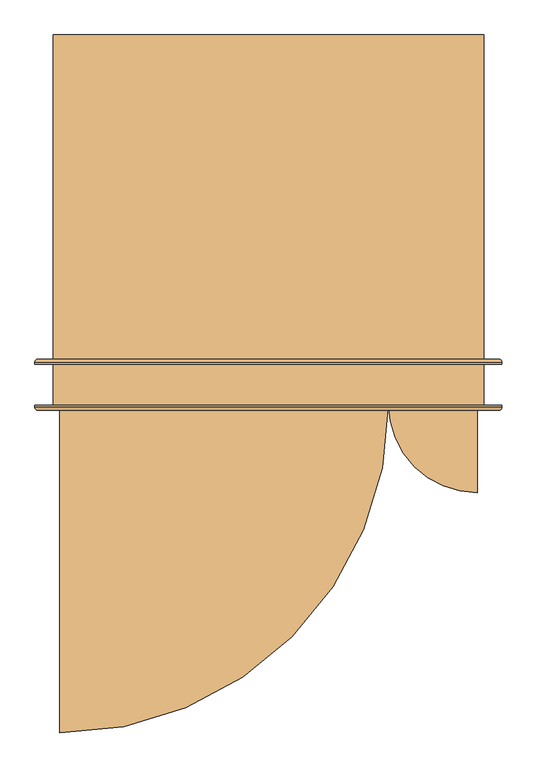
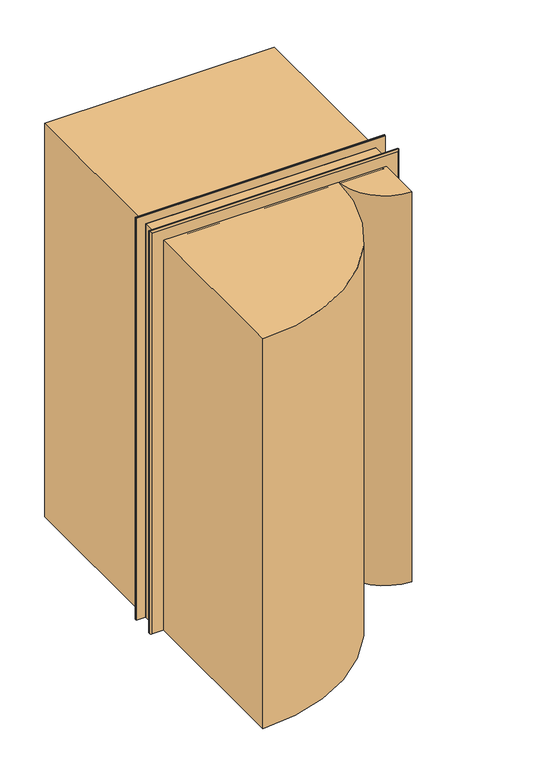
"""IFC4 building model written with IfcOpenShell, lengths in millimetres: door geometry, Дверь_Деревянная_Внутренняя_Двупольная_ГОСТ_475-2016 : 1310 х 2370(h)_Л_с Порогом."""

from ifc_helpers import new_model, si_unit, point, frame, frame_2d, origin, origin_with_axes, place, context, project, spatial, polyline, circle_curve, ellipse_curve, trimmed, segment, composite_curve, outline, extrude, faceted_brep, source, transform, mapped, element, save
from ifc_brep_helpers import plane_surface, cylinder_surface, revolved_surface, advanced_brep


def door_94be55c8(model_context):
    return source(origin(), model_context, "Body", "SolidModel", [
        extrude(outline(polyline([(-645.0, 456.5), (-645.0, 1456.5), (665.0, 1456.5), (665.0, 456.5), (-645.0, 456.5)])), origin_with_axes(), (0.0, 0.0, 1.0), 2370.0),
        extrude(outline(composite_curve([segment(polyline([(-625.0, -663.5), (-625.0, 336.5), (375.0, 336.5)]), True, "CONTINUOUS"), segment(trimmed(circle_curve(frame_2d((-625.0, 336.5)), 1000.0), [point((375.0, 336.5))], [point((-625.0, -663.5))], False, "CARTESIAN"), True, "CONTINUOUS")], self_intersect=False)), origin_with_axes(), (0.0, 0.0, 1.0), 2350.0),
        extrude(outline(composite_curve([segment(trimmed(circle_curve(frame_2d((645.0, 336.5)), 270.0), [point((645.0, 66.5))], [point((375.0, 336.5))], False, "CARTESIAN"), True, "CONTINUOUS"), segment(polyline([(375.0, 336.5), (645.0, 336.5), (645.0, 66.5)]), True, "CONTINUOUS")], self_intersect=False)), origin_with_axes(), (0.0, 0.0, 1.0), 2350.0),
        advanced_brep(
        [(410.0, 310.5, 1100.0), (420.0, 280.5, 1100.0), (450.0, 280.5, 1100.0), (460.0, 310.5, 1100.0), (417.0, 310.5, 1100.0), (453.0, 310.5, 1100.0), (425.0, 318.5, 1100.0), (445.0, 318.5, 1100.0), (425.0, 330.5, 1100.0), (445.0, 330.5, 1100.0), (435.0, 330.5, 1100.0), (435.0, 280.5, 1100.0)],
        [
            (0, 1, circle_curve(frame((444.6226265, 305.3742088, 1100.0), z_axis=(0.0, 0.0, 1.0), x_axis=(1.0, 0.0, 0.0)), 35.0)),
            (1, 2, circle_curve(frame((435.0, 280.5, 1100.0), z_axis=(0.0, 1.0, 0.0), x_axis=(1.0, 0.0, 0.0)), 15.0)),
            (2, 3, circle_curve(frame((425.3773735, 305.3742088, 1100.0), z_axis=(0.0, 0.0, 1.0), x_axis=(-1.0, 0.0, 0.0)), 35.0)),
            (3, 0, circle_curve(frame((435.0, 310.5, 1100.0), z_axis=(0.0, -1.0, 0.0), x_axis=(1.0, 0.0, 0.0)), 25.0)),
            (2, 1, circle_curve(frame((435.0, 280.5, 1100.0), z_axis=(0.0, 1.0, 0.0), x_axis=(1.0, 0.0, 0.0)), 15.0)),
            (0, 3, circle_curve(frame((435.0, 310.5, 1100.0), z_axis=(0.0, -1.0, 0.0), x_axis=(1.0, 0.0, 0.0)), 25.0)),
            (4, 0),
            (3, 5),
            (5, 4, circle_curve(frame((435.0, 310.5, 1100.0), z_axis=(0.0, -1.0, 0.0), x_axis=(1.0, 0.0, 0.0)), 18.0)),
            (4, 5, circle_curve(frame((435.0, 310.5, 1100.0), z_axis=(0.0, -1.0, 0.0), x_axis=(1.0, 0.0, 0.0)), 18.0)),
            (6, 4, circle_curve(frame((417.0, 318.5, 1100.0), z_axis=(0.0, 0.0, -1.0), x_axis=(1.0, 0.0, 0.0)), 8.0)),
            (5, 7, circle_curve(frame((453.0, 318.5, 1100.0), z_axis=(0.0, 0.0, -1.0), x_axis=(-1.0, 0.0, 0.0)), 8.0)),
            (7, 6, circle_curve(frame((435.0, 318.5, 1100.0), z_axis=(0.0, -1.0, 0.0), x_axis=(1.0, 0.0, 0.0)), 10.0)),
            (6, 7, circle_curve(frame((435.0, 318.5, 1100.0), z_axis=(0.0, -1.0, 0.0), x_axis=(1.0, 0.0, 0.0)), 10.0)),
            (8, 6),
            (7, 9),
            (9, 8, circle_curve(frame((435.0, 330.5, 1100.0), z_axis=(0.0, -1.0, 0.0), x_axis=(1.0, 0.0, 0.0)), 10.0)),
            (8, 9, circle_curve(frame((435.0, 330.5, 1100.0), z_axis=(0.0, -1.0, 0.0), x_axis=(1.0, 0.0, 0.0)), 10.0)),
            (10, 8),
            (9, 10),
            (1, 11),
            (11, 2),
        ],
        [
            revolved_surface(trimmed(ellipse_curve(frame((425.3773735, 305.3742088, 1100.0), z_axis=(0.0, 0.0, 1.0), x_axis=(-1.0, 0.0, 0.0)), 35.0, 35.0), [point((450.0, 280.5, 1100.0))], [point((460.0, 310.5, 1100.0))], True, "CARTESIAN"), (435.0, 280.5, 1100.0), (0.0, 1.0, 0.0)),
            plane_surface(frame((435.0, 310.5, 1100.0), z_axis=(0.0, 1.0, 0.0), x_axis=(1.0, 0.0, 0.0))),
            revolved_surface(trimmed(ellipse_curve(frame((453.0, 318.5, 1100.0), z_axis=(0.0, 0.0, -1.0), x_axis=(-1.0, 0.0, 0.0)), 8.0, 8.0), [point((453.0, 310.5, 1100.0))], [point((445.0, 318.5, 1100.0))], True, "CARTESIAN"), (435.0, 280.5, 1100.0), (0.0, 1.0, 0.0)),
            cylinder_surface(frame((435.0, 280.5, 1100.0), z_axis=(0.0, 1.0, 0.0), x_axis=(1.0, 0.0, 0.0)), 10.0),
            plane_surface(frame((435.0, 330.5, 1100.0), z_axis=(0.0, 1.0, 0.0), x_axis=(1.0, 0.0, 0.0))),
            plane_surface(frame((435.0, 280.5, 1100.0), z_axis=(0.0, -1.0, 0.0), x_axis=(1.0, 0.0, 0.0))),
        ],
        [
            (0, [[1, 2, 3, 4]]),
            (0, [[-3, 5, -1, 6]]),
            (1, [[7, -4, 8, 9]]),
            (1, [[-8, -6, -7, 10]]),
            (2, [[11, -9, 12, 13]]),
            (2, [[-12, -10, -11, 14]]),
            (3, [[15, -13, 16, 17]]),
            (3, [[-16, -14, -15, 18]]),
            (4, [[19, -17, 20]]),
            (4, [[-20, -18, -19]]),
            (5, [[21, 22, -2]]),
            (5, [[-22, -21, -5]]),
        ],
    ),
        extrude(outline(composite_curve([segment(trimmed(circle_curve(frame_2d((1100.0, 435.0)), 30.0), [point((1100.0, 465.0))], [point((1100.0, 405.0))], False, "CARTESIAN"), True, "CONTINUOUS"), segment(trimmed(circle_curve(frame_2d((1100.0, 435.0)), 30.0), [point((1100.0, 405.0))], [point((1100.0, 465.0))], False, "CARTESIAN"), True, "CONTINUOUS")], self_intersect=False)), frame((0.0, 330.5, 0.0), z_axis=(0.0, 1.0, 0.0), x_axis=(0.0, 0.0, 1.0)), (0.0, 0.0, 1.0), 6.0),
        advanced_brep(
        [(460.0, 411.5, 1100.0), (450.0, 441.5, 1100.0), (420.0, 441.5, 1100.0), (410.0, 411.5, 1100.0), (453.0, 411.5, 1100.0), (417.0, 411.5, 1100.0), (445.0, 403.5, 1100.0), (425.0, 403.5, 1100.0), (445.0, 391.5, 1100.0), (425.0, 391.5, 1100.0), (435.0, 391.5, 1100.0), (435.0, 441.5, 1100.0)],
        [
            (0, 1, circle_curve(frame((425.3773735, 416.6257912, 1100.0), z_axis=(0.0, 0.0, 1.0), x_axis=(-1.0, 0.0, 0.0)), 35.0)),
            (1, 2, circle_curve(frame((435.0, 441.5, 1100.0), z_axis=(0.0, -1.0, 0.0), x_axis=(-1.0, 0.0, 0.0)), 15.0)),
            (2, 3, circle_curve(frame((444.6226265, 416.6257912, 1100.0), z_axis=(0.0, 0.0, 1.0), x_axis=(1.0, 0.0, 0.0)), 35.0)),
            (3, 0, circle_curve(frame((435.0, 411.5, 1100.0), z_axis=(0.0, 1.0, 0.0), x_axis=(-1.0, 0.0, 0.0)), 25.0)),
            (2, 1, circle_curve(frame((435.0, 441.5, 1100.0), z_axis=(0.0, -1.0, 0.0), x_axis=(-1.0, 0.0, 0.0)), 15.0)),
            (0, 3, circle_curve(frame((435.0, 411.5, 1100.0), z_axis=(0.0, 1.0, 0.0), x_axis=(-1.0, 0.0, 0.0)), 25.0)),
            (4, 0),
            (3, 5),
            (5, 4, circle_curve(frame((435.0, 411.5, 1100.0), z_axis=(0.0, 1.0, 0.0), x_axis=(-1.0, 0.0, 0.0)), 18.0)),
            (4, 5, circle_curve(frame((435.0, 411.5, 1100.0), z_axis=(0.0, 1.0, 0.0), x_axis=(-1.0, 0.0, 0.0)), 18.0)),
            (6, 4, circle_curve(frame((453.0, 403.5, 1100.0), z_axis=(0.0, 0.0, -1.0), x_axis=(-1.0, 0.0, 0.0)), 8.0)),
            (5, 7, circle_curve(frame((417.0, 403.5, 1100.0), z_axis=(0.0, 0.0, -1.0), x_axis=(1.0, 0.0, 0.0)), 8.0)),
            (7, 6, circle_curve(frame((435.0, 403.5, 1100.0), z_axis=(0.0, 1.0, 0.0), x_axis=(-1.0, 0.0, 0.0)), 10.0)),
            (6, 7, circle_curve(frame((435.0, 403.5, 1100.0), z_axis=(0.0, 1.0, 0.0), x_axis=(-1.0, 0.0, 0.0)), 10.0)),
            (8, 6),
            (7, 9),
            (9, 8, circle_curve(frame((435.0, 391.5, 1100.0), z_axis=(0.0, 1.0, 0.0), x_axis=(-1.0, 0.0, 0.0)), 10.0)),
            (8, 9, circle_curve(frame((435.0, 391.5, 1100.0), z_axis=(0.0, 1.0, 0.0), x_axis=(-1.0, 0.0, 0.0)), 10.0)),
            (10, 8),
            (9, 10),
            (1, 11),
            (11, 2),
        ],
        [
            revolved_surface(trimmed(ellipse_curve(frame((444.6226265, 416.6257912, 1100.0), z_axis=(0.0, 0.0, 1.0), x_axis=(1.0, 0.0, 0.0)), 35.0, 35.0), [point((420.0, 441.5, 1100.0))], [point((410.0, 411.5, 1100.0))], True, "CARTESIAN"), (435.0, 441.5, 1100.0), (0.0, -1.0, 0.0)),
            plane_surface(frame((435.0, 411.5, 1100.0), z_axis=(0.0, -1.0, 0.0), x_axis=(-1.0, 0.0, 0.0))),
            revolved_surface(trimmed(ellipse_curve(frame((417.0, 403.5, 1100.0), z_axis=(0.0, 0.0, -1.0), x_axis=(1.0, 0.0, 0.0)), 8.0, 8.0), [point((417.0, 411.5, 1100.0))], [point((425.0, 403.5, 1100.0))], True, "CARTESIAN"), (435.0, 441.5, 1100.0), (0.0, -1.0, 0.0)),
            cylinder_surface(frame((435.0, 441.5, 1100.0), z_axis=(0.0, -1.0, 0.0), x_axis=(-1.0, 0.0, 0.0)), 10.0),
            plane_surface(frame((435.0, 391.5, 1100.0), z_axis=(0.0, -1.0, 0.0), x_axis=(-1.0, 0.0, 0.0))),
            plane_surface(frame((435.0, 441.5, 1100.0), z_axis=(0.0, 1.0, 0.0), x_axis=(-1.0, 0.0, 0.0))),
        ],
        [
            (0, [[1, 2, 3, 4]]),
            (0, [[-3, 5, -1, 6]]),
            (1, [[7, -4, 8, 9]]),
            (1, [[-8, -6, -7, 10]]),
            (2, [[11, -9, 12, 13]]),
            (2, [[-12, -10, -11, 14]]),
            (3, [[15, -13, 16, 17]]),
            (3, [[-16, -14, -15, 18]]),
            (4, [[19, -17, 20]]),
            (4, [[-20, -18, -19]]),
            (5, [[21, 22, -2]]),
            (5, [[-22, -21, -5]]),
        ],
    ),
        extrude(outline(composite_curve([segment(trimmed(circle_curve(frame_2d((1100.0, 435.0)), 30.0), [point((1100.0, 405.0))], [point((1100.0, 465.0))], False, "CARTESIAN"), True, "CONTINUOUS"), segment(trimmed(circle_curve(frame_2d((1100.0, 435.0)), 30.0), [point((1100.0, 465.0))], [point((1100.0, 405.0))], False, "CARTESIAN"), True, "CONTINUOUS")], self_intersect=False)), frame((0.0, 385.5, 0.0), z_axis=(0.0, 1.0, 0.0), x_axis=(0.0, 0.0, 1.0)), (0.0, 0.0, 1.0), 6.0),
        advanced_brep(
        [(340.0, 310.5, 1100.0), (290.0, 310.5, 1100.0), (300.0, 280.5, 1100.0), (330.0, 280.5, 1100.0), (333.0, 310.5, 1100.0), (297.0, 310.5, 1100.0), (325.0, 318.5, 1100.0), (305.0, 318.5, 1100.0), (325.0, 330.5, 1100.0), (305.0, 330.5, 1100.0), (315.0, 330.5, 1100.0), (315.0, 280.5, 1100.0)],
        [
            (0, 1, circle_curve(frame((315.0, 310.5, 1100.0), z_axis=(0.0, -1.0, 0.0), x_axis=(-1.0, 0.0, 0.0)), 25.0)),
            (1, 2, circle_curve(frame((324.6226265, 305.3742088, 1100.0), z_axis=(0.0, 0.0, 1.0), x_axis=(1.0, 0.0, 0.0)), 35.0)),
            (2, 3, circle_curve(frame((315.0, 280.5, 1100.0), z_axis=(0.0, 1.0, 0.0), x_axis=(-1.0, 0.0, 0.0)), 15.0)),
            (3, 0, circle_curve(frame((305.3773735, 305.3742088, 1100.0), z_axis=(0.0, 0.0, 1.0), x_axis=(-1.0, 0.0, 0.0)), 35.0)),
            (1, 0, circle_curve(frame((315.0, 310.5, 1100.0), z_axis=(0.0, -1.0, 0.0), x_axis=(-1.0, 0.0, 0.0)), 25.0)),
            (3, 2, circle_curve(frame((315.0, 280.5, 1100.0), z_axis=(0.0, 1.0, 0.0), x_axis=(-1.0, 0.0, 0.0)), 15.0)),
            (4, 5, circle_curve(frame((315.0, 310.5, 1100.0), z_axis=(0.0, -1.0, 0.0), x_axis=(-1.0, 0.0, 0.0)), 18.0)),
            (5, 1),
            (0, 4),
            (5, 4, circle_curve(frame((315.0, 310.5, 1100.0), z_axis=(0.0, -1.0, 0.0), x_axis=(-1.0, 0.0, 0.0)), 18.0)),
            (6, 7, circle_curve(frame((315.0, 318.5, 1100.0), z_axis=(0.0, -1.0, 0.0), x_axis=(-1.0, 0.0, 0.0)), 10.0)),
            (7, 5, circle_curve(frame((297.0, 318.5, 1100.0), z_axis=(0.0, 0.0, -1.0), x_axis=(1.0, 0.0, 0.0)), 8.0)),
            (4, 6, circle_curve(frame((333.0, 318.5, 1100.0), z_axis=(0.0, 0.0, -1.0), x_axis=(-1.0, 0.0, 0.0)), 8.0)),
            (7, 6, circle_curve(frame((315.0, 318.5, 1100.0), z_axis=(0.0, -1.0, 0.0), x_axis=(-1.0, 0.0, 0.0)), 10.0)),
            (8, 9, circle_curve(frame((315.0, 330.5, 1100.0), z_axis=(0.0, -1.0, 0.0), x_axis=(-1.0, 0.0, 0.0)), 10.0)),
            (9, 7),
            (6, 8),
            (9, 8, circle_curve(frame((315.0, 330.5, 1100.0), z_axis=(0.0, -1.0, 0.0), x_axis=(-1.0, 0.0, 0.0)), 10.0)),
            (10, 9),
            (8, 10),
            (2, 11),
            (11, 3),
        ],
        [
            revolved_surface(trimmed(ellipse_curve(frame((324.6226265, 305.3742088, 1100.0), z_axis=(0.0, 0.0, -1.0), x_axis=(1.0, 0.0, 0.0)), 35.0, 35.0), [point((300.0, 280.5, 1100.0))], [point((290.0, 310.5, 1100.0))], True, "CARTESIAN"), (315.0, 280.5, 1100.0), (0.0, 1.0, 0.0)),
            plane_surface(frame((315.0, 310.5, 1100.0), z_axis=(0.0, 1.0, 0.0), x_axis=(-1.0, 0.0, 0.0))),
            revolved_surface(trimmed(ellipse_curve(frame((297.0, 318.5, 1100.0), z_axis=(0.0, 0.0, 1.0), x_axis=(1.0, 0.0, 0.0)), 8.0, 8.0), [point((297.0, 310.5, 1100.0))], [point((305.0, 318.5, 1100.0))], True, "CARTESIAN"), (315.0, 280.5, 1100.0), (0.0, 1.0, 0.0)),
            cylinder_surface(frame((315.0, 280.5, 1100.0), z_axis=(0.0, 1.0, 0.0), x_axis=(-1.0, 0.0, 0.0)), 10.0),
            plane_surface(frame((315.0, 330.5, 1100.0), z_axis=(0.0, 1.0, 0.0), x_axis=(-1.0, 0.0, 0.0))),
            plane_surface(frame((315.0, 280.5, 1100.0), z_axis=(0.0, -1.0, 0.0), x_axis=(-1.0, 0.0, 0.0))),
        ],
        [
            (0, [[1, 2, 3, 4]]),
            (0, [[5, -4, 6, -2]]),
            (1, [[7, 8, -1, 9]]),
            (1, [[10, -9, -5, -8]]),
            (2, [[11, 12, -7, 13]]),
            (2, [[14, -13, -10, -12]]),
            (3, [[15, 16, -11, 17]]),
            (3, [[18, -17, -14, -16]]),
            (4, [[19, -15, 20]]),
            (4, [[-20, -18, -19]]),
            (5, [[-3, 21, 22]]),
            (5, [[-6, -22, -21]]),
        ],
    ),
        extrude(outline(composite_curve([segment(trimmed(circle_curve(frame_2d((1100.0, 315.0)), 30.0), [point((1100.0, 285.0))], [point((1100.0, 345.0))], False, "CARTESIAN"), True, "CONTINUOUS"), segment(trimmed(circle_curve(frame_2d((1100.0, 315.0)), 30.0), [point((1100.0, 345.0))], [point((1100.0, 285.0))], False, "CARTESIAN"), True, "CONTINUOUS")], self_intersect=False)), frame((0.0, 330.5, 0.0), z_axis=(0.0, 1.0, 0.0), x_axis=(0.0, 0.0, 1.0)), (0.0, 0.0, 1.0), 6.0),
        advanced_brep(
        [(290.0, 411.5, 1100.0), (340.0, 411.5, 1100.0), (330.0, 441.5, 1100.0), (300.0, 441.5, 1100.0), (297.0, 411.5, 1100.0), (333.0, 411.5, 1100.0), (305.0, 403.5, 1100.0), (325.0, 403.5, 1100.0), (305.0, 391.5, 1100.0), (325.0, 391.5, 1100.0), (315.0, 391.5, 1100.0), (315.0, 441.5, 1100.0)],
        [
            (0, 1, circle_curve(frame((315.0, 411.5, 1100.0), z_axis=(0.0, 1.0, 0.0), x_axis=(1.0, 0.0, 0.0)), 25.0)),
            (1, 2, circle_curve(frame((305.3773735, 416.6257912, 1100.0), z_axis=(0.0, 0.0, 1.0), x_axis=(-1.0, 0.0, 0.0)), 35.0)),
            (2, 3, circle_curve(frame((315.0, 441.5, 1100.0), z_axis=(0.0, -1.0, 0.0), x_axis=(1.0, 0.0, 0.0)), 15.0)),
            (3, 0, circle_curve(frame((324.6226265, 416.6257912, 1100.0), z_axis=(0.0, 0.0, 1.0), x_axis=(1.0, 0.0, 0.0)), 35.0)),
            (1, 0, circle_curve(frame((315.0, 411.5, 1100.0), z_axis=(0.0, 1.0, 0.0), x_axis=(1.0, 0.0, 0.0)), 25.0)),
            (3, 2, circle_curve(frame((315.0, 441.5, 1100.0), z_axis=(0.0, -1.0, 0.0), x_axis=(1.0, 0.0, 0.0)), 15.0)),
            (4, 5, circle_curve(frame((315.0, 411.5, 1100.0), z_axis=(0.0, 1.0, 0.0), x_axis=(1.0, 0.0, 0.0)), 18.0)),
            (5, 1),
            (0, 4),
            (5, 4, circle_curve(frame((315.0, 411.5, 1100.0), z_axis=(0.0, 1.0, 0.0), x_axis=(1.0, 0.0, 0.0)), 18.0)),
            (6, 7, circle_curve(frame((315.0, 403.5, 1100.0), z_axis=(0.0, 1.0, 0.0), x_axis=(1.0, 0.0, 0.0)), 10.0)),
            (7, 5, circle_curve(frame((333.0, 403.5, 1100.0), z_axis=(0.0, 0.0, -1.0), x_axis=(-1.0, 0.0, 0.0)), 8.0)),
            (4, 6, circle_curve(frame((297.0, 403.5, 1100.0), z_axis=(0.0, 0.0, -1.0), x_axis=(1.0, 0.0, 0.0)), 8.0)),
            (7, 6, circle_curve(frame((315.0, 403.5, 1100.0), z_axis=(0.0, 1.0, 0.0), x_axis=(1.0, 0.0, 0.0)), 10.0)),
            (8, 9, circle_curve(frame((315.0, 391.5, 1100.0), z_axis=(0.0, 1.0, 0.0), x_axis=(1.0, 0.0, 0.0)), 10.0)),
            (9, 7),
            (6, 8),
            (9, 8, circle_curve(frame((315.0, 391.5, 1100.0), z_axis=(0.0, 1.0, 0.0), x_axis=(1.0, 0.0, 0.0)), 10.0)),
            (10, 9),
            (8, 10),
            (2, 11),
            (11, 3),
        ],
        [
            revolved_surface(trimmed(ellipse_curve(frame((305.3773735, 416.6257912, 1100.0), z_axis=(0.0, 0.0, -1.0), x_axis=(-1.0, 0.0, 0.0)), 35.0, 35.0), [point((330.0, 441.5, 1100.0))], [point((340.0, 411.5, 1100.0))], True, "CARTESIAN"), (315.0, 441.5, 1100.0), (0.0, -1.0, 0.0)),
            plane_surface(frame((315.0, 411.5, 1100.0), z_axis=(0.0, -1.0, 0.0), x_axis=(1.0, 0.0, 0.0))),
            revolved_surface(trimmed(ellipse_curve(frame((333.0, 403.5, 1100.0), z_axis=(0.0, 0.0, 1.0), x_axis=(-1.0, 0.0, 0.0)), 8.0, 8.0), [point((333.0, 411.5, 1100.0))], [point((325.0, 403.5, 1100.0))], True, "CARTESIAN"), (315.0, 441.5, 1100.0), (0.0, -1.0, 0.0)),
            cylinder_surface(frame((315.0, 441.5, 1100.0), z_axis=(0.0, -1.0, 0.0), x_axis=(1.0, 0.0, 0.0)), 10.0),
            plane_surface(frame((315.0, 391.5, 1100.0), z_axis=(0.0, -1.0, 0.0), x_axis=(1.0, 0.0, 0.0))),
            plane_surface(frame((315.0, 441.5, 1100.0), z_axis=(0.0, 1.0, 0.0), x_axis=(1.0, 0.0, 0.0))),
        ],
        [
            (0, [[1, 2, 3, 4]]),
            (0, [[5, -4, 6, -2]]),
            (1, [[7, 8, -1, 9]]),
            (1, [[10, -9, -5, -8]]),
            (2, [[11, 12, -7, 13]]),
            (2, [[14, -13, -10, -12]]),
            (3, [[15, 16, -11, 17]]),
            (3, [[18, -17, -14, -16]]),
            (4, [[19, -15, 20]]),
            (4, [[-20, -18, -19]]),
            (5, [[-3, 21, 22]]),
            (5, [[-6, -22, -21]]),
        ],
    ),
        extrude(outline(composite_curve([segment(trimmed(circle_curve(frame_2d((1100.0, 315.0)), 30.0), [point((1100.0, 345.0))], [point((1100.0, 285.0))], False, "CARTESIAN"), True, "CONTINUOUS"), segment(trimmed(circle_curve(frame_2d((1100.0, 315.0)), 30.0), [point((1100.0, 285.0))], [point((1100.0, 345.0))], False, "CARTESIAN"), True, "CONTINUOUS")], self_intersect=False)), frame((0.0, 385.5, 0.0), z_axis=(0.0, 1.0, 0.0), x_axis=(0.0, 0.0, 1.0)), (0.0, 0.0, 1.0), 6.0),
        extrude(outline(polyline([(0.0, 645.0), (0.0, 665.0), (2370.0, 665.0), (2370.0, -645.0), (0.0, -645.0), (0.0, -625.0), (2350.0, -625.0), (2350.0, 645.0), (0.0, 645.0)])), frame((0.0, 331.5, 0.0), z_axis=(0.0, 1.0, 0.0), x_axis=(0.0, 0.0, 1.0)), (0.0, 0.0, 1.0), 125.0),
        advanced_brep(
        [(-700.0, 326.5, 0.0), (-700.0, 331.5, 0.0), (-610.0, 331.5, 0.0), (-610.0, 326.5, 0.0), (-620.0, 316.5, 0.0), (-690.0, 316.5, 0.0), (-700.0, 326.5, 2425.0), (-700.0, 331.5, 2425.0), (720.0, 331.5, 2425.0), (720.0, 331.5, 0.0), (630.0, 331.5, 0.0), (630.0, 331.5, 2335.0), (-610.0, 331.5, 2335.0), (-610.0, 326.5, 2335.0), (-620.0, 316.5, 2345.0), (640.0, 316.5, 2345.0), (640.0, 316.5, 0.0), (710.0, 316.5, 0.0), (710.0, 316.5, 2415.0), (-690.0, 316.5, 2415.0), (720.0, 326.5, 2425.0), (720.0, 326.5, 0.0), (630.0, 326.5, 0.0), (630.0, 326.5, 2335.0)],
        [
            (0, 1),
            (1, 2),
            (2, 3),
            (3, 4, circle_curve(frame((-620.0, 326.5, 0.0), z_axis=(0.0, 0.0, -1.0), x_axis=(1.0, 0.0, 0.0)), 10.0)),
            (4, 5),
            (5, 0, circle_curve(frame((-690.0, 326.5, 0.0), z_axis=(0.0, 0.0, -1.0), x_axis=(1.0, 0.0, 0.0)), 10.0)),
            (0, 6),
            (6, 7),
            (7, 1),
            (7, 8),
            (8, 9),
            (9, 10),
            (10, 11),
            (11, 12),
            (12, 2),
            (12, 13),
            (13, 3),
            (13, 14, ellipse_curve(frame((-620.0, 326.5, 2345.0), z_axis=(-0.7071067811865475, 0.0, -0.7071067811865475), x_axis=(0.7071067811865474, 0.0, -0.7071067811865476)), 14.1421356, 10.0)),
            (14, 4),
            (14, 15),
            (15, 16),
            (16, 17),
            (17, 18),
            (18, 19),
            (19, 5),
            (19, 6, ellipse_curve(frame((-690.0, 326.5, 2415.0), z_axis=(-0.7071067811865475, 0.0, -0.7071067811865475), x_axis=(0.7071067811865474, 0.0, -0.7071067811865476)), 14.1421356, 10.0)),
            (8, 20),
            (20, 21),
            (21, 9),
            (21, 17, circle_curve(frame((710.0, 326.5, 0.0), z_axis=(0.0, 0.0, -1.0), x_axis=(-1.0, 0.0, 0.0)), 10.0)),
            (16, 22, circle_curve(frame((640.0, 326.5, 0.0), z_axis=(0.0, 0.0, -1.0), x_axis=(-1.0, 0.0, 0.0)), 10.0)),
            (22, 10),
            (23, 11),
            (22, 23),
            (15, 23, ellipse_curve(frame((640.0, 326.5, 2345.0), z_axis=(0.7071067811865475, 0.0, -0.7071067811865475), x_axis=(0.7071067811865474, 0.0, 0.7071067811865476)), 14.1421356, 10.0)),
            (20, 18, ellipse_curve(frame((710.0, 326.5, 2415.0), z_axis=(0.7071067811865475, 0.0, -0.7071067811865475), x_axis=(0.7071067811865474, 0.0, 0.7071067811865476)), 14.1421356, 10.0)),
            (6, 20),
            (23, 13),
        ],
        [
            plane_surface(frame((-645.0, 331.5, 0.0), z_axis=(0.0, 0.0, -1.0), x_axis=(0.0, -1.0, 0.0))),
            plane_surface(frame((-700.0, 326.5, 0.0), z_axis=(-1.0, 0.0, 0.0), x_axis=(0.0, 0.0, 1.0))),
            plane_surface(frame((-700.0, 331.5, 0.0), z_axis=(0.0, 1.0, 0.0), x_axis=(0.0, 0.0, 1.0))),
            plane_surface(frame((-610.0, 331.5, 0.0), z_axis=(1.0, 0.0, 0.0), x_axis=(0.0, 0.0, 1.0))),
            cylinder_surface(frame((-620.0, 326.5, 0.0), z_axis=(0.0, 0.0, -1.0), x_axis=(1.0, 0.0, 0.0)), 10.0),
            plane_surface(frame((-620.0, 316.5, 0.0), z_axis=(0.0, -1.0, 0.0), x_axis=(0.0, 0.0, 1.0))),
            cylinder_surface(frame((-690.0, 326.5, 0.0), z_axis=(0.0, 0.0, -1.0), x_axis=(1.0, 0.0, 0.0)), 10.0),
            plane_surface(frame((720.0, 326.5, 2425.0), z_axis=(1.0, 0.0, 0.0), x_axis=(0.0, 0.0, -1.0))),
            plane_surface(frame((665.0, 331.5, 0.0), z_axis=(0.0, 0.0, -1.0), x_axis=(0.0, -1.0, 0.0))),
            plane_surface(frame((630.0, 331.5, 2335.0), z_axis=(-1.0, 0.0, 0.0), x_axis=(0.0, 0.0, -1.0))),
            cylinder_surface(frame((640.0, 326.5, 2370.0), z_axis=(0.0, 0.0, 1.0), x_axis=(-1.0, 0.0, 0.0)), 10.0),
            cylinder_surface(frame((710.0, 326.5, 2370.0), z_axis=(0.0, 0.0, 1.0), x_axis=(-1.0, 0.0, 0.0)), 10.0),
            plane_surface(frame((-700.0, 326.5, 2425.0), z_axis=(0.0, 0.0, 1.0), x_axis=(1.0, 0.0, 0.0))),
            plane_surface(frame((-610.0, 331.5, 2335.0), z_axis=(0.0, 0.0, -1.0), x_axis=(1.0, 0.0, 0.0))),
            cylinder_surface(frame((-645.0, 326.5, 2345.0), z_axis=(-1.0, 0.0, 0.0), x_axis=(0.0, 0.0, -1.0)), 10.0),
            cylinder_surface(frame((-645.0, 326.5, 2415.0), z_axis=(-1.0, 0.0, 0.0), x_axis=(0.0, 0.0, -1.0)), 10.0),
        ],
        [
            (0, [[1, 2, 3, 4, 5, 6]]),
            (1, [[-1, 7, 8, 9]]),
            (2, [[-2, -9, 10, 11, 12, 13, 14, 15]]),
            (3, [[-3, -15, 16, 17]]),
            (4, [[-4, -17, 18, 19]]),
            (5, [[-5, -19, 20, 21, 22, 23, 24, 25]]),
            (6, [[-6, -25, 26, -7]]),
            (7, [[27, 28, 29, -11]]),
            (8, [[30, -22, 31, 32, -12, -29]]),
            (9, [[33, -13, -32, 34]]),
            (10, [[35, -34, -31, -21]]),
            (11, [[36, -23, -30, -28]]),
            (12, [[-8, 37, -27, -10]]),
            (13, [[-16, -14, -33, 38]]),
            (14, [[-18, -38, -35, -20]]),
            (15, [[-26, -24, -36, -37]]),
        ],
    ),
        advanced_brep(
        [(720.0, 461.5, 0.0), (720.0, 456.5, 0.0), (630.0, 456.5, 0.0), (630.0, 461.5, 0.0), (640.0, 471.5, 0.0), (710.0, 471.5, 0.0), (720.0, 461.5, 2425.0), (720.0, 456.5, 2425.0), (-700.0, 456.5, 2425.0), (-700.0, 456.5, 0.0), (-610.0, 456.5, 0.0), (-610.0, 456.5, 2335.0), (630.0, 456.5, 2335.0), (630.0, 461.5, 2335.0), (640.0, 471.5, 2345.0), (-620.0, 471.5, 2345.0), (-620.0, 471.5, 0.0), (-690.0, 471.5, 0.0), (-690.0, 471.5, 2415.0), (710.0, 471.5, 2415.0), (-700.0, 461.5, 2425.0), (-700.0, 461.5, 0.0), (-610.0, 461.5, 0.0), (-610.0, 461.5, 2335.0)],
        [
            (0, 1),
            (1, 2),
            (2, 3),
            (3, 4, circle_curve(frame((640.0, 461.5, 0.0), z_axis=(0.0, 0.0, -1.0), x_axis=(-1.0, 0.0, 0.0)), 10.0)),
            (4, 5),
            (5, 0, circle_curve(frame((710.0, 461.5, 0.0), z_axis=(0.0, 0.0, -1.0), x_axis=(-1.0, 0.0, 0.0)), 10.0)),
            (0, 6),
            (6, 7),
            (7, 1),
            (7, 8),
            (8, 9),
            (9, 10),
            (10, 11),
            (11, 12),
            (12, 2),
            (12, 13),
            (13, 3),
            (13, 14, ellipse_curve(frame((640.0, 461.5, 2345.0), z_axis=(0.7071067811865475, 0.0, -0.7071067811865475), x_axis=(-0.7071067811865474, 0.0, -0.7071067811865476)), 14.1421356, 10.0)),
            (14, 4),
            (14, 15),
            (15, 16),
            (16, 17),
            (17, 18),
            (18, 19),
            (19, 5),
            (19, 6, ellipse_curve(frame((710.0, 461.5, 2415.0), z_axis=(0.7071067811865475, 0.0, -0.7071067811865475), x_axis=(-0.7071067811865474, 0.0, -0.7071067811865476)), 14.1421356, 10.0)),
            (8, 20),
            (20, 21),
            (21, 9),
            (21, 17, circle_curve(frame((-690.0, 461.5, 0.0), z_axis=(0.0, 0.0, -1.0), x_axis=(1.0, 0.0, 0.0)), 10.0)),
            (16, 22, circle_curve(frame((-620.0, 461.5, 0.0), z_axis=(0.0, 0.0, -1.0), x_axis=(1.0, 0.0, 0.0)), 10.0)),
            (22, 10),
            (23, 11),
            (22, 23),
            (15, 23, ellipse_curve(frame((-620.0, 461.5, 2345.0), z_axis=(-0.7071067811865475, 0.0, -0.7071067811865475), x_axis=(-0.7071067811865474, 0.0, 0.7071067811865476)), 14.1421356, 10.0)),
            (20, 18, ellipse_curve(frame((-690.0, 461.5, 2415.0), z_axis=(-0.7071067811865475, 0.0, -0.7071067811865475), x_axis=(-0.7071067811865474, 0.0, 0.7071067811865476)), 14.1421356, 10.0)),
            (6, 20),
            (23, 13),
        ],
        [
            plane_surface(frame((665.0, 456.5, 0.0), z_axis=(0.0, 0.0, -1.0), x_axis=(0.0, -1.0, 0.0))),
            plane_surface(frame((720.0, 461.5, 0.0), z_axis=(1.0, 0.0, 0.0), x_axis=(0.0, 0.0, 1.0))),
            plane_surface(frame((720.0, 456.5, 0.0), z_axis=(0.0, -1.0, 0.0), x_axis=(0.0, 0.0, 1.0))),
            plane_surface(frame((630.0, 456.5, 0.0), z_axis=(-1.0, 0.0, 0.0), x_axis=(0.0, 0.0, 1.0))),
            cylinder_surface(frame((640.0, 461.5, 0.0), z_axis=(0.0, 0.0, -1.0), x_axis=(-1.0, 0.0, 0.0)), 10.0),
            plane_surface(frame((640.0, 471.5, 0.0), z_axis=(0.0, 1.0, 0.0), x_axis=(0.0, 0.0, 1.0))),
            cylinder_surface(frame((710.0, 461.5, 0.0), z_axis=(0.0, 0.0, -1.0), x_axis=(-1.0, 0.0, 0.0)), 10.0),
            plane_surface(frame((-700.0, 461.5, 2425.0), z_axis=(-1.0, 0.0, 0.0), x_axis=(0.0, 0.0, -1.0))),
            plane_surface(frame((-645.0, 456.5, 0.0), z_axis=(0.0, 0.0, -1.0), x_axis=(0.0, -1.0, 0.0))),
            plane_surface(frame((-610.0, 456.5, 2335.0), z_axis=(1.0, 0.0, 0.0), x_axis=(0.0, 0.0, -1.0))),
            cylinder_surface(frame((-620.0, 461.5, 2370.0), z_axis=(0.0, 0.0, 1.0), x_axis=(1.0, 0.0, 0.0)), 10.0),
            cylinder_surface(frame((-690.0, 461.5, 2370.0), z_axis=(0.0, 0.0, 1.0), x_axis=(1.0, 0.0, 0.0)), 10.0),
            plane_surface(frame((720.0, 461.5, 2425.0), z_axis=(0.0, 0.0, 1.0), x_axis=(-1.0, 0.0, 0.0))),
            plane_surface(frame((630.0, 456.5, 2335.0), z_axis=(0.0, 0.0, -1.0), x_axis=(-1.0, 0.0, 0.0))),
            cylinder_surface(frame((665.0, 461.5, 2345.0), z_axis=(1.0, 0.0, 0.0), x_axis=(0.0, 0.0, -1.0)), 10.0),
            cylinder_surface(frame((665.0, 461.5, 2415.0), z_axis=(1.0, 0.0, 0.0), x_axis=(0.0, 0.0, -1.0)), 10.0),
        ],
        [
            (0, [[1, 2, 3, 4, 5, 6]]),
            (1, [[-1, 7, 8, 9]]),
            (2, [[-2, -9, 10, 11, 12, 13, 14, 15]]),
            (3, [[-3, -15, 16, 17]]),
            (4, [[-4, -17, 18, 19]]),
            (5, [[-5, -19, 20, 21, 22, 23, 24, 25]]),
            (6, [[-6, -25, 26, -7]]),
            (7, [[27, 28, 29, -11]]),
            (8, [[30, -22, 31, 32, -12, -29]]),
            (9, [[33, -13, -32, 34]]),
            (10, [[35, -34, -31, -21]]),
            (11, [[36, -23, -30, -28]]),
            (12, [[-8, 37, -27, -10]]),
            (13, [[-16, -14, -33, 38]]),
            (14, [[-18, -38, -35, -20]]),
            (15, [[-26, -24, -36, -37]]),
        ],
    ),
        extrude(outline(polyline([(605.0, 385.5), (605.0, 331.5), (-585.0, 331.5), (-585.0, 385.5), (605.0, 385.5)])), origin_with_axes(), (0.0, 0.0, 1.0), 45.0),
        extrude(outline(polyline([(600.0, 385.5), (600.0, 336.5), (375.0, 336.5), (375.0, 385.5), (600.0, 385.5)])), frame((0.0, 0.0, 45.0), z_axis=(0.0, 0.0, 1.0), x_axis=(1.0, 0.0, 0.0)), (0.0, 0.0, 1.0), 2260.0),
        extrude(outline(polyline([(375.0, 385.5), (375.0, 336.5), (-580.0, 336.5), (-580.0, 385.5), (375.0, 385.5)])), frame((0.0, 0.0, 45.0), z_axis=(0.0, 0.0, 1.0), x_axis=(1.0, 0.0, 0.0)), (0.0, 0.0, 1.0), 2260.0),
        faceted_brep([(630.0, 456.5, 0.0), (645.0, 456.5, 0.0), (645.0, 430.5, 0.0), (630.0, 430.5, 0.0), (630.0, 456.5, 2335.0), (-610.0, 456.5, 2335.0), (-610.0, 456.5, 0.0), (-625.0, 456.5, 0.0), (-625.0, 456.5, 2350.0), (645.0, 456.5, 2350.0), (645.0, 430.5, 2350.0), (630.0, 430.5, 15.0), (630.0, 430.5, 2335.0), (-625.0, 430.5, 2350.0), (-610.0, 430.5, 2335.0), (-610.0, 430.5, 0.0), (-625.0, 430.5, 0.0), (-610.0, 430.5, 15.0)], [[[0, 1, 2, 3]], [[1, 0, 4, 5, 6, 7, 8, 9]], [[1, 9, 10, 2]], [[4, 0, 3, 11, 12]], [[9, 8, 13, 10]], [[5, 4, 12, 14]], [[7, 6, 15, 16]], [[8, 7, 16, 13]], [[6, 5, 14, 17, 15]], [[3, 2, 10, 13, 16, 15, 17, 14, 12, 11]]]),
        faceted_brep([(645.0, 331.5, 0.0), (630.0, 331.5, 0.0), (630.0, 336.5, 0.0), (645.0, 336.5, 0.0), (645.0, 331.5, 2350.0), (645.0, 336.5, 2350.0), (-625.0, 331.5, 2350.0), (-625.0, 331.5, 0.0), (-610.0, 331.5, 0.0), (-610.0, 331.5, 2335.0), (630.0, 331.5, 2335.0), (630.0, 336.5, 2335.0), (630.0, 336.5, 15.0), (-625.0, 336.5, 2350.0), (-610.0, 336.5, 2335.0), (-625.0, 336.5, 0.0), (-610.0, 336.5, 0.0), (-610.0, 336.5, 15.0)], [[[0, 1, 2, 3]], [[4, 0, 3, 5]], [[1, 0, 4, 6, 7, 8, 9, 10]], [[1, 10, 11, 12, 2]], [[6, 4, 5, 13]], [[10, 9, 14, 11]], [[8, 7, 15, 16]], [[7, 6, 13, 15]], [[9, 8, 16, 17, 14]], [[3, 2, 12, 11, 14, 17, 16, 15, 13, 5]]]),
        faceted_brep([(590.0, 430.5, 0.0), (645.0, 430.5, 0.0), (645.0, 336.5, 0.0), (605.0, 336.5, 0.0), (605.0, 390.5, 0.0), (590.0, 390.5, 0.0), (590.0, 430.5, 2295.0), (-570.0, 430.5, 2295.0), (-570.0, 430.5, 0.0), (-625.0, 430.5, 0.0), (-625.0, 430.5, 2350.0), (645.0, 430.5, 2350.0), (645.0, 336.5, 2350.0), (-625.0, 336.5, 2350.0), (-625.0, 336.5, 0.0), (-585.0, 336.5, 0.0), (-585.0, 336.5, 2310.0), (605.0, 336.5, 2310.0), (605.0, 390.5, 2310.0), (-585.0, 390.5, 2310.0), (-585.0, 390.5, 0.0), (-570.0, 390.5, 0.0), (-570.0, 390.5, 2295.0), (590.0, 390.5, 2295.0)], [[[0, 1, 2, 3, 4, 5]], [[1, 0, 6, 7, 8, 9, 10, 11]], [[2, 1, 11, 12]], [[3, 2, 12, 13, 14, 15, 16, 17]], [[4, 3, 17, 18]], [[5, 4, 18, 19, 20, 21, 22, 23]], [[0, 5, 23, 6]], [[12, 11, 10, 13]], [[18, 17, 16, 19]], [[6, 23, 22, 7]], [[8, 21, 20, 15, 14, 9]], [[13, 10, 9, 14]], [[19, 16, 15, 20]], [[7, 22, 21, 8]]]),
    ])


if __name__ == "__main__":
    model = new_model("IFC4")
    model_context = context("Model", 3, world=origin())
    ifc_project = project(units=[si_unit("LENGTHUNIT", "METRE", prefix="MILLI")], contexts=[model_context])
    site = spatial("IfcSite", under=ifc_project)
    building = spatial("IfcBuilding", under=site)
    placement = place(None, origin())
    door_shape = door_94be55c8(model_context)
    element("IfcDoor", 1, ObjectType="Дверь_Деревянная_Внутренняя_Двупольная_ГОСТ_475-2016 : 1310 х 2370(h)_Л_с Порогом", at=placement, inside=building, context=model_context, shape_type="MappedRepresentation", body=[
        mapped(door_shape, transform((0.0, 0.0, 0.0), x_axis=(1.0, 0.0, 0.0), y_axis=(0.0, 1.0, 0.0), z_axis=(0.0, 0.0, 1.0))),
    ])
    save(model, "model.ifc")
